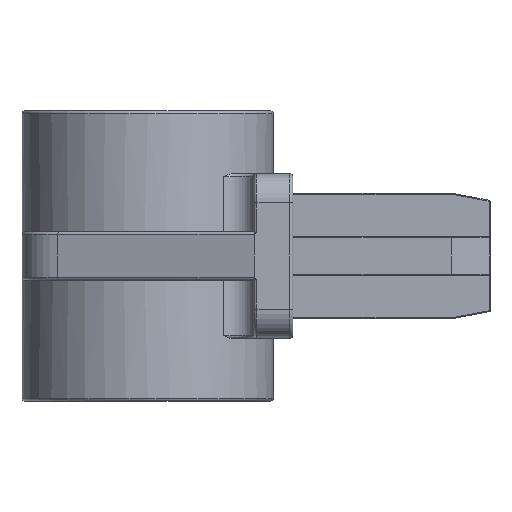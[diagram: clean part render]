
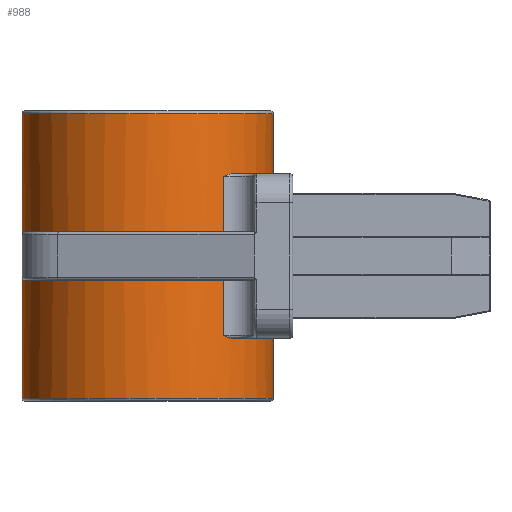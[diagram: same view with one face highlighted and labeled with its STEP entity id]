
A CAD part, left-side view. The second image highlights one B-rep face of the part: STEP entity #988.
In plain terms, the highlighted cylindrical face has radius 13 mm (diameter 26 mm), a partial arc.
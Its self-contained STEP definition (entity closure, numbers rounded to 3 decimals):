
#524=CARTESIAN_POINT('',(3.699,-0.861,23.5));
#525=VERTEX_POINT('',#524);
#533=CARTESIAN_POINT('',(-3.258,3.22,23.5));
#534=VERTEX_POINT('',#533);
#535=CARTESIAN_POINT('',(6.474,11.839,23.5));
#536=DIRECTION('',(0.0,0.0,1.0));
#537=DIRECTION('',(0.0,1.0,0.0));
#538=AXIS2_PLACEMENT_3D('',#535,#536,#537);
#539=CIRCLE('',#538,13.0);
#540=EDGE_CURVE('',#534,#525,#539,.T.);
#715=CARTESIAN_POINT('',(6.474,24.839,29.7));
#716=VERTEX_POINT('',#715);
#748=CARTESIAN_POINT('',(6.474,-1.161,29.7));
#749=VERTEX_POINT('',#748);
#767=CARTESIAN_POINT('',(6.474,11.839,29.7));
#768=DIRECTION('',(0.0,0.0,1.0));
#769=DIRECTION('',(-1.0,0.0,0.0));
#770=AXIS2_PLACEMENT_3D('',#767,#768,#769);
#771=CIRCLE('',#770,13.0);
#772=EDGE_CURVE('',#716,#749,#771,.T.);
#825=CARTESIAN_POINT('',(6.474,11.839,0.0));
#826=DIRECTION('',(0.0,0.0,1.0));
#827=DIRECTION('',(0.0,1.0,0.0));
#828=AXIS2_PLACEMENT_3D('',#825,#826,#827);
#829=CYLINDRICAL_SURFACE('',#828,13.0);
#830=ORIENTED_EDGE('',*,*,#772,.F.);
#831=CARTESIAN_POINT('',(6.474,24.839,17.2));
#832=VERTEX_POINT('',#831);
#833=CARTESIAN_POINT('',(6.474,24.839,17.2));
#834=DIRECTION('',(0.0,0.0,1.0));
#835=VECTOR('',#834,12.5);
#836=LINE('',#833,#835);
#837=EDGE_CURVE('',#832,#716,#836,.T.);
#838=ORIENTED_EDGE('',*,*,#837,.F.);
#839=CARTESIAN_POINT('',(3.697,24.539,17.5));
#840=VERTEX_POINT('',#839);
#841=CARTESIAN_POINT('',(6.474,24.839,17.2));
#842=CARTESIAN_POINT('',(6.037,24.839,17.266));
#843=CARTESIAN_POINT('',(5.558,24.816,17.34));
#844=CARTESIAN_POINT('',(4.604,24.713,17.457));
#845=CARTESIAN_POINT('',(4.129,24.633,17.5));
#846=CARTESIAN_POINT('',(3.697,24.539,17.5));
#847=B_SPLINE_CURVE_WITH_KNOTS('',3,(#841,#842,#843,#844,#845,#846),.UNSPECIFIED.,.F.,.U.,(4,2,4),(0.0,0.132,0.265),.UNSPECIFIED.);
#848=EDGE_CURVE('',#832,#840,#847,.T.);
#849=ORIENTED_EDGE('',*,*,#848,.T.);
#850=CARTESIAN_POINT('',(-3.926,4.039,17.5));
#851=VERTEX_POINT('',#850);
#852=CARTESIAN_POINT('',(6.474,11.839,17.5));
#853=DIRECTION('',(0.0,0.0,1.0));
#854=DIRECTION('',(0.0,1.0,0.0));
#855=AXIS2_PLACEMENT_3D('',#852,#853,#854);
#856=CIRCLE('',#855,13.0);
#857=EDGE_CURVE('',#840,#851,#856,.T.);
#858=ORIENTED_EDGE('',*,*,#857,.T.);
#859=CARTESIAN_POINT('',(-3.926,4.039,23.2));
#860=VERTEX_POINT('',#859);
#861=CARTESIAN_POINT('',(-3.926,4.039,17.5));
#862=DIRECTION('',(0.0,0.0,1.0));
#863=VECTOR('',#862,5.7);
#864=LINE('',#861,#863);
#865=EDGE_CURVE('',#851,#860,#864,.T.);
#866=ORIENTED_EDGE('',*,*,#865,.T.);
#867=CARTESIAN_POINT('',(-3.926,4.039,23.2));
#868=CARTESIAN_POINT('',(-3.925,4.038,23.201));
#869=CARTESIAN_POINT('',(-3.924,4.036,23.202));
#870=CARTESIAN_POINT('',(-3.733,3.781,23.334));
#871=CARTESIAN_POINT('',(-3.546,3.552,23.453));
#872=CARTESIAN_POINT('',(-3.324,3.295,23.497));
#873=CARTESIAN_POINT('',(-3.289,3.255,23.5));
#874=CARTESIAN_POINT('',(-3.258,3.22,23.5));
#875=B_SPLINE_CURVE_WITH_KNOTS('',3,(#867,#868,#869,#870,#871,#872,#873,#874),.UNSPECIFIED.,.F.,.U.,(4,2,2,4),(-0.001,0.0,0.103,0.125),.UNSPECIFIED.);
#876=EDGE_CURVE('',#534,#860,#875,.F.);
#877=ORIENTED_EDGE('',*,*,#876,.F.);
#878=ORIENTED_EDGE('',*,*,#540,.T.);
#879=CARTESIAN_POINT('',(4.74,-1.045,23.2));
#880=VERTEX_POINT('',#879);
#881=CARTESIAN_POINT('',(3.699,-0.861,23.5));
#882=CARTESIAN_POINT('',(3.745,-0.872,23.5));
#883=CARTESIAN_POINT('',(3.797,-0.883,23.497));
#884=CARTESIAN_POINT('',(4.13,-0.951,23.453));
#885=CARTESIAN_POINT('',(4.421,-1.002,23.334));
#886=CARTESIAN_POINT('',(4.737,-1.044,23.202));
#887=CARTESIAN_POINT('',(4.739,-1.045,23.201));
#888=CARTESIAN_POINT('',(4.74,-1.045,23.2));
#889=B_SPLINE_CURVE_WITH_KNOTS('',3,(#881,#882,#883,#884,#885,#886,#887,#888),.UNSPECIFIED.,.F.,.U.,(4,2,2,4),(0.285,0.298,0.357,0.357),.UNSPECIFIED.);
#890=EDGE_CURVE('',#880,#525,#889,.F.);
#891=ORIENTED_EDGE('',*,*,#890,.F.);
#892=CARTESIAN_POINT('',(4.74,-1.045,6.8));
#893=VERTEX_POINT('',#892);
#894=CARTESIAN_POINT('',(4.74,-1.045,6.8));
#895=DIRECTION('',(0.0,0.0,1.0));
#896=VECTOR('',#895,16.4);
#897=LINE('',#894,#896);
#898=EDGE_CURVE('',#893,#880,#897,.T.);
#899=ORIENTED_EDGE('',*,*,#898,.F.);
#900=CARTESIAN_POINT('',(3.699,-0.861,6.5));
#901=VERTEX_POINT('',#900);
#902=CARTESIAN_POINT('',(4.74,-1.045,6.8));
#903=CARTESIAN_POINT('',(4.739,-1.045,6.799));
#904=CARTESIAN_POINT('',(4.737,-1.044,6.798));
#905=CARTESIAN_POINT('',(4.541,-1.018,6.716));
#906=CARTESIAN_POINT('',(4.345,-0.987,6.634));
#907=CARTESIAN_POINT('',(4.016,-0.927,6.536));
#908=CARTESIAN_POINT('',(3.856,-0.896,6.5));
#909=CARTESIAN_POINT('',(3.699,-0.861,6.5));
#910=B_SPLINE_CURVE_WITH_KNOTS('',3,(#902,#903,#904,#905,#906,#907,#908,#909),.UNSPECIFIED.,.F.,.U.,(4,2,2,4),(-0.001,0.0,0.064,0.106),.UNSPECIFIED.);
#911=EDGE_CURVE('',#901,#893,#910,.F.);
#912=ORIENTED_EDGE('',*,*,#911,.F.);
#913=CARTESIAN_POINT('',(-3.258,3.22,6.5));
#914=VERTEX_POINT('',#913);
#915=CARTESIAN_POINT('',(6.474,11.839,6.5));
#916=DIRECTION('',(0.0,0.0,-1.0));
#917=DIRECTION('',(0.0,1.0,0.0));
#918=AXIS2_PLACEMENT_3D('',#915,#916,#917);
#919=CIRCLE('',#918,13.0);
#920=EDGE_CURVE('',#901,#914,#919,.T.);
#921=ORIENTED_EDGE('',*,*,#920,.T.);
#922=CARTESIAN_POINT('',(-3.926,4.039,6.8));
#923=VERTEX_POINT('',#922);
#924=CARTESIAN_POINT('',(-3.258,3.22,6.5));
#925=CARTESIAN_POINT('',(-3.365,3.34,6.5));
#926=CARTESIAN_POINT('',(-3.47,3.464,6.536));
#927=CARTESIAN_POINT('',(-3.683,3.722,6.634));
#928=CARTESIAN_POINT('',(-3.805,3.878,6.716));
#929=CARTESIAN_POINT('',(-3.924,4.036,6.798));
#930=CARTESIAN_POINT('',(-3.925,4.038,6.799));
#931=CARTESIAN_POINT('',(-3.926,4.039,6.8));
#932=B_SPLINE_CURVE_WITH_KNOTS('',3,(#924,#925,#926,#927,#928,#929,#930,#931),.UNSPECIFIED.,.F.,.U.,(4,2,2,4),(0.438,0.513,0.624,0.625),.UNSPECIFIED.);
#933=EDGE_CURVE('',#923,#914,#932,.F.);
#934=ORIENTED_EDGE('',*,*,#933,.F.);
#935=CARTESIAN_POINT('',(-3.926,4.039,12.5));
#936=VERTEX_POINT('',#935);
#937=CARTESIAN_POINT('',(-3.926,4.039,6.8));
#938=DIRECTION('',(0.0,0.0,1.0));
#939=VECTOR('',#938,5.7);
#940=LINE('',#937,#939);
#941=EDGE_CURVE('',#923,#936,#940,.T.);
#942=ORIENTED_EDGE('',*,*,#941,.T.);
#943=CARTESIAN_POINT('',(3.697,24.539,12.5));
#944=VERTEX_POINT('',#943);
#945=CARTESIAN_POINT('',(6.474,11.839,12.5));
#946=DIRECTION('',(0.0,0.0,-1.0));
#947=DIRECTION('',(0.0,1.0,0.0));
#948=AXIS2_PLACEMENT_3D('',#945,#946,#947);
#949=CIRCLE('',#948,13.0);
#950=EDGE_CURVE('',#936,#944,#949,.T.);
#951=ORIENTED_EDGE('',*,*,#950,.T.);
#952=CARTESIAN_POINT('',(6.474,24.839,12.8));
#953=VERTEX_POINT('',#952);
#954=CARTESIAN_POINT('',(3.697,24.539,12.5));
#955=CARTESIAN_POINT('',(4.129,24.633,12.5));
#956=CARTESIAN_POINT('',(4.604,24.713,12.543));
#957=CARTESIAN_POINT('',(5.558,24.816,12.66));
#958=CARTESIAN_POINT('',(6.037,24.839,12.734));
#959=CARTESIAN_POINT('',(6.474,24.839,12.8));
#960=B_SPLINE_CURVE_WITH_KNOTS('',3,(#954,#955,#956,#957,#958,#959),.UNSPECIFIED.,.F.,.U.,(4,2,4),(0.504,0.637,0.769),.UNSPECIFIED.);
#961=EDGE_CURVE('',#953,#944,#960,.F.);
#962=ORIENTED_EDGE('',*,*,#961,.F.);
#963=CARTESIAN_POINT('',(6.474,24.839,0.3));
#964=VERTEX_POINT('',#963);
#965=CARTESIAN_POINT('',(6.474,24.839,0.3));
#966=DIRECTION('',(0.0,0.0,1.0));
#967=VECTOR('',#966,12.5);
#968=LINE('',#965,#967);
#969=EDGE_CURVE('',#964,#953,#968,.T.);
#970=ORIENTED_EDGE('',*,*,#969,.F.);
#971=CARTESIAN_POINT('',(6.474,-1.161,0.3));
#972=VERTEX_POINT('',#971);
#973=CARTESIAN_POINT('',(6.474,11.839,0.3));
#974=DIRECTION('',(0.0,0.0,-1.0));
#975=DIRECTION('',(-1.0,0.0,0.0));
#976=AXIS2_PLACEMENT_3D('',#973,#974,#975);
#977=CIRCLE('',#976,13.0);
#978=EDGE_CURVE('',#972,#964,#977,.T.);
#979=ORIENTED_EDGE('',*,*,#978,.F.);
#980=CARTESIAN_POINT('',(6.474,-1.161,0.3));
#981=DIRECTION('',(0.0,0.0,1.0));
#982=VECTOR('',#981,29.4);
#983=LINE('',#980,#982);
#984=EDGE_CURVE('',#972,#749,#983,.T.);
#985=ORIENTED_EDGE('',*,*,#984,.T.);
#986=EDGE_LOOP('',(#830,#838,#849,#858,#866,#877,#878,#891,#899,#912,#921,#934,#942,#951,#962,#970,#979,#985));
#987=FACE_OUTER_BOUND('',#986,.T.);
#988=ADVANCED_FACE('',(#987),#829,.T.);
